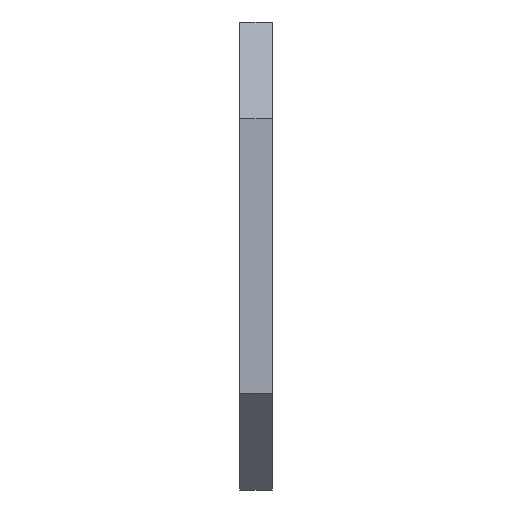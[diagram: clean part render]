
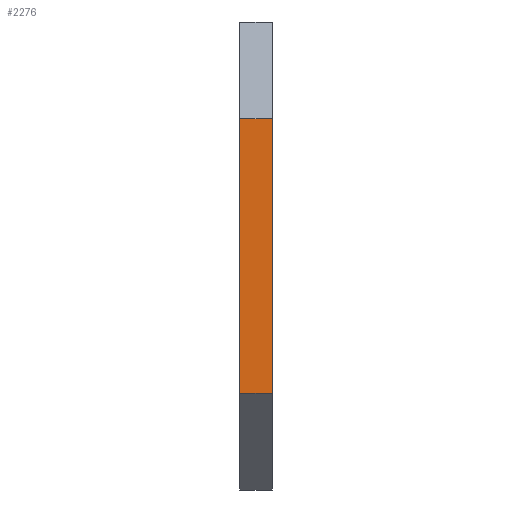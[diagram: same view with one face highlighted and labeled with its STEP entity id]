
A CAD part, left-side view. The second image highlights one B-rep face of the part: STEP entity #2276.
In plain terms, the highlighted planar face has unit normal (-1, 0, 0).
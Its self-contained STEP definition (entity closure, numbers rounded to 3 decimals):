
#47 = VECTOR ( 'NONE', #696, 1000. ) ;
#74 = CARTESIAN_POINT ( 'NONE',  ( -72.5, 0., -45. ) ) ;
#79 = ORIENTED_EDGE ( 'NONE', *, *, #832, .T. ) ;
#130 = AXIS2_PLACEMENT_3D ( 'NONE', #2569, #1743, #1415 ) ;
#134 = ORIENTED_EDGE ( 'NONE', *, *, #950, .T. ) ;
#188 = VERTEX_POINT ( 'NONE', #360 ) ;
#325 = VERTEX_POINT ( 'NONE', #1122 ) ;
#360 = CARTESIAN_POINT ( 'NONE',  ( -72.5, 10., -42.5 ) ) ;
#443 = DIRECTION ( 'NONE',  ( 0., 0., 1. ) ) ;
#487 = ORIENTED_EDGE ( 'NONE', *, *, #2322, .F. ) ;
#552 = CARTESIAN_POINT ( 'NONE',  ( -72.5, 0., 42.5 ) ) ;
#599 = VECTOR ( 'NONE', #443, 1000. ) ;
#668 = CARTESIAN_POINT ( 'NONE',  ( -72.5, 10., -45. ) ) ;
#696 = DIRECTION ( 'NONE',  ( 0., 1., 0. ) ) ;
#739 = FACE_OUTER_BOUND ( 'NONE', #1633, .T. ) ;
#770 = LINE ( 'NONE', #668, #599 ) ;
#828 = VECTOR ( 'NONE', #2400, 1000. ) ;
#832 = EDGE_CURVE ( 'NONE', #188, #2353, #1639, .T. ) ;
#950 = EDGE_CURVE ( 'NONE', #2353, #2078, #2122, .T. ) ;
#1086 = DIRECTION ( 'NONE',  ( 0., -1., 0. ) ) ;
#1122 = CARTESIAN_POINT ( 'NONE',  ( -72.5, 10., 42.5 ) ) ;
#1237 = LINE ( 'NONE', #1764, #47 ) ;
#1415 = DIRECTION ( 'NONE',  ( 0., 0., -1. ) ) ;
#1479 = PLANE ( 'NONE',  #130 ) ;
#1619 = CARTESIAN_POINT ( 'NONE',  ( -72.5, 0., -42.5 ) ) ;
#1633 = EDGE_LOOP ( 'NONE', ( #134, #2636, #487, #79 ) ) ;
#1639 = LINE ( 'NONE', #1619, #1829 ) ;
#1743 = DIRECTION ( 'NONE',  ( 1., 0., 0. ) ) ;
#1764 = CARTESIAN_POINT ( 'NONE',  ( -72.5, 10., 42.5 ) ) ;
#1829 = VECTOR ( 'NONE', #1086, 1000. ) ;
#1886 = CARTESIAN_POINT ( 'NONE',  ( -72.5, 0., -42.5 ) ) ;
#2072 = EDGE_CURVE ( 'NONE', #2078, #325, #1237, .T. ) ;
#2078 = VERTEX_POINT ( 'NONE', #552 ) ;
#2122 = LINE ( 'NONE', #74, #828 ) ;
#2276 = ADVANCED_FACE ( 'NONE', ( #739 ), #1479, .F. ) ;
#2322 = EDGE_CURVE ( 'NONE', #188, #325, #770, .T. ) ;
#2353 = VERTEX_POINT ( 'NONE', #1886 ) ;
#2400 = DIRECTION ( 'NONE',  ( 0., 0., 1. ) ) ;
#2569 = CARTESIAN_POINT ( 'NONE',  ( -72.5, 10., -45. ) ) ;
#2636 = ORIENTED_EDGE ( 'NONE', *, *, #2072, .T. ) ;
